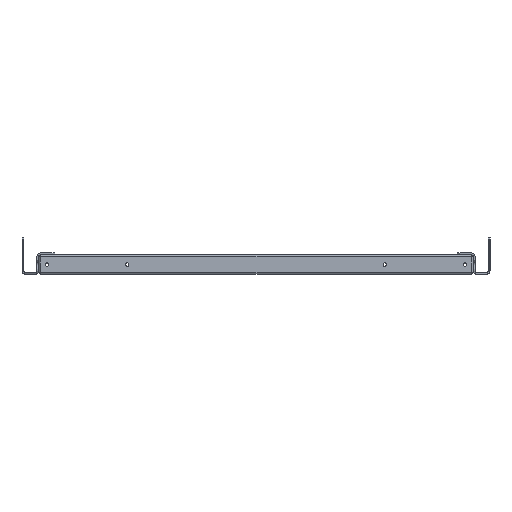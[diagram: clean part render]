
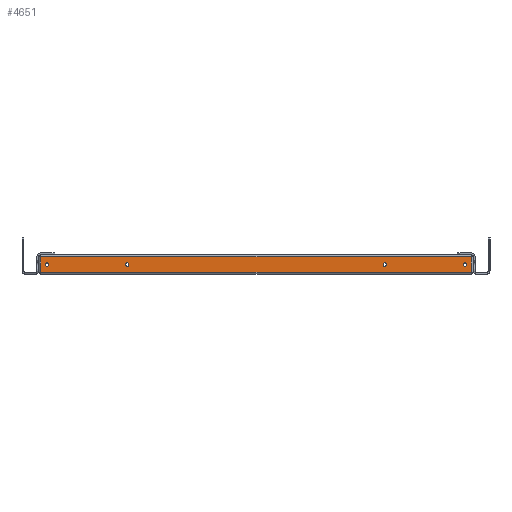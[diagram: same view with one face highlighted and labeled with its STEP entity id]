
A CAD part, front view. The second image highlights one B-rep face of the part: STEP entity #4651.
In plain terms, the highlighted planar face has unit normal (0, -1, 0).
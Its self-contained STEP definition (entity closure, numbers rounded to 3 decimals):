
#192 = DIRECTION ( 'NONE',  ( -1., 0., 0. ) ) ;
#193 = CARTESIAN_POINT ( 'NONE',  ( -225., -175., 18. ) ) ;
#194 = LINE ( 'NONE', #193, #10656 ) ;
#1459 = DIRECTION ( 'NONE',  ( -1., 0., 0. ) ) ;
#1460 = DIRECTION ( 'NONE',  ( 0., 1., 0. ) ) ;
#1467 = CARTESIAN_POINT ( 'NONE',  ( 216.5, -175., 10. ) ) ;
#1483 = DIRECTION ( 'NONE',  ( -1., 0., 0. ) ) ;
#1484 = DIRECTION ( 'NONE',  ( 0., 1., 0. ) ) ;
#1488 = CARTESIAN_POINT ( 'NONE',  ( 133.5, -175., 10. ) ) ;
#2077 = CARTESIAN_POINT ( 'NONE',  ( -133.5, -175., 10. ) ) ;
#2212 = CARTESIAN_POINT ( 'NONE',  ( -216.5, -175., 10. ) ) ;
#2308 = DIRECTION ( 'NONE',  ( -1., 0., 0. ) ) ;
#2311 = DIRECTION ( 'NONE',  ( 0., 1., 0. ) ) ;
#2413 = DIRECTION ( 'NONE',  ( -1., 0., 0. ) ) ;
#2588 = DIRECTION ( 'NONE',  ( 0., 1., 0. ) ) ;
#3100 = CARTESIAN_POINT ( 'NONE',  ( -131.7, -175., 10. ) ) ;
#3101 = CARTESIAN_POINT ( 'NONE',  ( -135.3, -175., 10. ) ) ;
#3108 = CARTESIAN_POINT ( 'NONE',  ( -214.7, -175., 10. ) ) ;
#3109 = CARTESIAN_POINT ( 'NONE',  ( -218.3, -175., 10. ) ) ;
#3116 = CARTESIAN_POINT ( 'NONE',  ( 135.3, -175., 10. ) ) ;
#3117 = CARTESIAN_POINT ( 'NONE',  ( 131.7, -175., 10. ) ) ;
#3124 = CARTESIAN_POINT ( 'NONE',  ( 218.3, -175., 10. ) ) ;
#3125 = CARTESIAN_POINT ( 'NONE',  ( 214.7, -175., 10. ) ) ;
#3236 = CARTESIAN_POINT ( 'NONE',  ( 223., -175., 2. ) ) ;
#3237 = CARTESIAN_POINT ( 'NONE',  ( 223., -175., 18. ) ) ;
#3238 = CARTESIAN_POINT ( 'NONE',  ( -223., -175., 18. ) ) ;
#3239 = CARTESIAN_POINT ( 'NONE',  ( -223., -175., 2. ) ) ;
#3376 = DIRECTION ( 'NONE',  ( -1., 0., 0. ) ) ;
#3377 = DIRECTION ( 'NONE',  ( 0., 1., 0. ) ) ;
#3378 = CARTESIAN_POINT ( 'NONE',  ( 225., -175., 20. ) ) ;
#3379 = PLANE ( 'NONE',  #8391 ) ;
#3766 = AXIS2_PLACEMENT_3D ( 'NONE', #2212, #2311, #2308 ) ;
#3780 = VECTOR ( 'NONE', #6666, 1000. ) ;
#4220 = AXIS2_PLACEMENT_3D ( 'NONE', #2077, #2588, #2413 ) ;
#4276 = CIRCLE ( 'NONE', #11980, 1.8 ) ;
#4280 = CIRCLE ( 'NONE', #11999, 1.8 ) ;
#4329 = CIRCLE ( 'NONE', #10702, 1.8 ) ;
#4336 = CIRCLE ( 'NONE', #11003, 1.8 ) ;
#4352 = CIRCLE ( 'NONE', #10641, 1.8 ) ;
#4355 = CIRCLE ( 'NONE', #10706, 1.8 ) ;
#4632 = CIRCLE ( 'NONE', #3766, 1.8 ) ;
#4647 = CIRCLE ( 'NONE', #4220, 1.8 ) ;
#4651 = ADVANCED_FACE ( 'NONE', ( #8401, #8392, #8389, #8387, #8385 ), #3379, .F. ) ;
#5169 = VERTEX_POINT ( 'NONE', #3239 ) ;
#5170 = VERTEX_POINT ( 'NONE', #3238 ) ;
#5171 = VERTEX_POINT ( 'NONE', #3237 ) ;
#5172 = VERTEX_POINT ( 'NONE', #3236 ) ;
#5283 = VERTEX_POINT ( 'NONE', #3125 ) ;
#5284 = VERTEX_POINT ( 'NONE', #3124 ) ;
#5291 = VERTEX_POINT ( 'NONE', #3117 ) ;
#5292 = VERTEX_POINT ( 'NONE', #3116 ) ;
#5299 = VERTEX_POINT ( 'NONE', #3109 ) ;
#5300 = VERTEX_POINT ( 'NONE', #3108 ) ;
#5307 = VERTEX_POINT ( 'NONE', #3101 ) ;
#5308 = VERTEX_POINT ( 'NONE', #3100 ) ;
#5554 = EDGE_LOOP ( 'NONE', ( #5824, #5828, #5827, #5829 ) ) ;
#5560 = EDGE_LOOP ( 'NONE', ( #5822, #5826 ) ) ;
#5562 = EDGE_LOOP ( 'NONE', ( #5820, #5825 ) ) ;
#5566 = EDGE_LOOP ( 'NONE', ( #5818, #5823 ) ) ;
#5572 = EDGE_LOOP ( 'NONE', ( #5819, #5821 ) ) ;
#5818 = ORIENTED_EDGE ( 'NONE', *, *, #11332, .T. ) ;
#5819 = ORIENTED_EDGE ( 'NONE', *, *, #11298, .T. ) ;
#5820 = ORIENTED_EDGE ( 'NONE', *, *, #11314, .T. ) ;
#5821 = ORIENTED_EDGE ( 'NONE', *, *, #11682, .T. ) ;
#5822 = ORIENTED_EDGE ( 'NONE', *, *, #11313, .T. ) ;
#5823 = ORIENTED_EDGE ( 'NONE', *, *, #11629, .T. ) ;
#5824 = ORIENTED_EDGE ( 'NONE', *, *, #11284, .T. ) ;
#5825 = ORIENTED_EDGE ( 'NONE', *, *, #8833, .T. ) ;
#5826 = ORIENTED_EDGE ( 'NONE', *, *, #8841, .T. ) ;
#5827 = ORIENTED_EDGE ( 'NONE', *, *, #11500, .T. ) ;
#5828 = ORIENTED_EDGE ( 'NONE', *, *, #11213, .T. ) ;
#5829 = ORIENTED_EDGE ( 'NONE', *, *, #11330, .T. ) ;
#6048 = LINE ( 'NONE', #6145, #10895 ) ;
#6093 = DIRECTION ( 'NONE',  ( -1., 0., 0. ) ) ;
#6097 = DIRECTION ( 'NONE',  ( 0., 1., 0. ) ) ;
#6101 = DIRECTION ( 'NONE',  ( 0., 1., 0. ) ) ;
#6102 = DIRECTION ( 'NONE',  ( -1., 0., 0. ) ) ;
#6117 = DIRECTION ( 'NONE',  ( -1., 0., 0. ) ) ;
#6121 = LINE ( 'NONE', #6522, #10888 ) ;
#6126 = DIRECTION ( 'NONE',  ( 0., 0., 1. ) ) ;
#6145 = CARTESIAN_POINT ( 'NONE',  ( 225., -175., 2. ) ) ;
#6185 = DIRECTION ( 'NONE',  ( 1., 0., 0. ) ) ;
#6217 = DIRECTION ( 'NONE',  ( -1., 0., 0. ) ) ;
#6226 = DIRECTION ( 'NONE',  ( 0., 1., 0. ) ) ;
#6272 = DIRECTION ( 'NONE',  ( 0., 1., 0. ) ) ;
#6374 = CARTESIAN_POINT ( 'NONE',  ( -133.5, -175., 10. ) ) ;
#6502 = CARTESIAN_POINT ( 'NONE',  ( 133.5, -175., 10. ) ) ;
#6522 = CARTESIAN_POINT ( 'NONE',  ( 223., -175., 20. ) ) ;
#6536 = LINE ( 'NONE', #6607, #3780 ) ;
#6563 = CARTESIAN_POINT ( 'NONE',  ( -216.5, -175., 10. ) ) ;
#6607 = CARTESIAN_POINT ( 'NONE',  ( -223., -175., 20. ) ) ;
#6666 = DIRECTION ( 'NONE',  ( 0., 0., -1. ) ) ;
#6752 = CARTESIAN_POINT ( 'NONE',  ( 216.5, -175., 10. ) ) ;
#8385 = FACE_OUTER_BOUND ( 'NONE', #5554, .T. ) ;
#8387 = FACE_BOUND ( 'NONE', #5560, .T. ) ;
#8389 = FACE_BOUND ( 'NONE', #5562, .T. ) ;
#8391 = AXIS2_PLACEMENT_3D ( 'NONE', #3378, #3377, #3376 ) ;
#8392 = FACE_BOUND ( 'NONE', #5566, .T. ) ;
#8401 = FACE_BOUND ( 'NONE', #5572, .T. ) ;
#8833 = EDGE_CURVE ( 'NONE', #5292, #5291, #4280, .T. ) ;
#8841 = EDGE_CURVE ( 'NONE', #5284, #5283, #4276, .T. ) ;
#10641 = AXIS2_PLACEMENT_3D ( 'NONE', #6374, #6272, #6102 ) ;
#10656 = VECTOR ( 'NONE', #192, 1000. ) ;
#10702 = AXIS2_PLACEMENT_3D ( 'NONE', #6563, #6226, #6217 ) ;
#10706 = AXIS2_PLACEMENT_3D ( 'NONE', #6502, #6101, #6117 ) ;
#10888 = VECTOR ( 'NONE', #6126, 1000. ) ;
#10895 = VECTOR ( 'NONE', #6185, 1000. ) ;
#11003 = AXIS2_PLACEMENT_3D ( 'NONE', #6752, #6097, #6093 ) ;
#11213 = EDGE_CURVE ( 'NONE', #5171, #5170, #194, .T. ) ;
#11284 = EDGE_CURVE ( 'NONE', #5172, #5171, #6121, .T. ) ;
#11298 = EDGE_CURVE ( 'NONE', #5307, #5308, #4352, .T. ) ;
#11313 = EDGE_CURVE ( 'NONE', #5283, #5284, #4336, .T. ) ;
#11314 = EDGE_CURVE ( 'NONE', #5291, #5292, #4355, .T. ) ;
#11330 = EDGE_CURVE ( 'NONE', #5169, #5172, #6048, .T. ) ;
#11332 = EDGE_CURVE ( 'NONE', #5299, #5300, #4329, .T. ) ;
#11500 = EDGE_CURVE ( 'NONE', #5170, #5169, #6536, .T. ) ;
#11629 = EDGE_CURVE ( 'NONE', #5300, #5299, #4632, .T. ) ;
#11682 = EDGE_CURVE ( 'NONE', #5308, #5307, #4647, .T. ) ;
#11980 = AXIS2_PLACEMENT_3D ( 'NONE', #1467, #1460, #1459 ) ;
#11999 = AXIS2_PLACEMENT_3D ( 'NONE', #1488, #1484, #1483 ) ;
